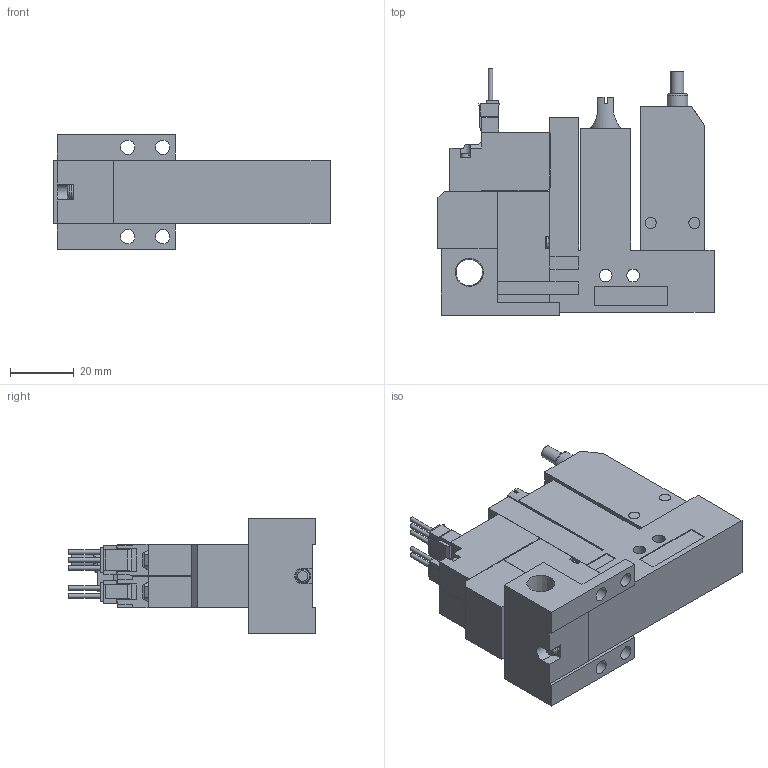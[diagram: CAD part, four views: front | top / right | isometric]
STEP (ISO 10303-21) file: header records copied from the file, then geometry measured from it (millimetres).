
FILE_DESCRIPTION(('STEP AP203'),'1');
FILE_NAME('ABS_ABPL5WLR101.stp','2025-02-18T05:28:30',(' '),(' '),'Spatial InterOp 3D',' ',' ');
FILE_SCHEMA(('CONFIG_CONTROL_DESIGN'));
Length unit declared in the file: millimetre
Products named in the file (5): BMC22M※※※※ABS_ABPL5WLR101; Solenoid valve W; Pressure sensor ABSL; Unit L; Base MR10R
Assembly tree (4 placements, depth 2):
  BMC22M※※※※ABS_ABPL5WLR101
    Solenoid valve W
    Pressure sensor ABSL
    Unit L
    Base MR10R
Bounding box: 86.6 x 77.45 x 36 mm (x, y, z)
Volume: 94952.5 mm3; surface area: 27760.9 mm2
Topology: 4 solids, 4 shells, 377 faces, 1012 edges, 669 vertices
Faces by surface type: plane 316, cylinder 48, cone 9, torus 4
Full cylindrical faces by diameter (mm): 1.4 x5, 2.5 x1, 3 x4, 3.5 x6, 3.6 x1, 4 x3, 4.134 x1, 4.5 x4, 5.2 x1, 6 x1, 6.5 x1, 6.6 x1, 8.279 x1
Entity records: 11681 total; most frequent: CARTESIAN_POINT 2124, ORIENTED_EDGE 1898, DIRECTION 1846, EDGE_CURVE 949, LINE 806, VECTOR 806, VERTEX_POINT 653, AXIS2_PLACEMENT_3D 520
